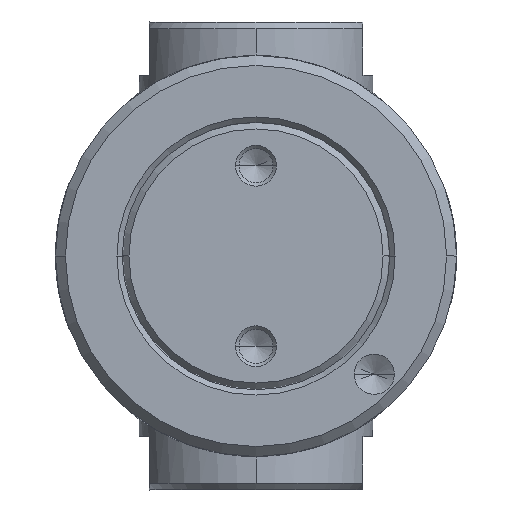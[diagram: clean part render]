
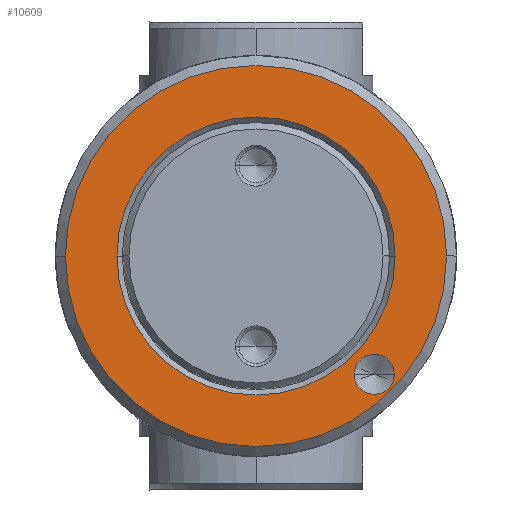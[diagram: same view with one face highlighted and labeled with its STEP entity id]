
A CAD part, front view. The second image highlights one B-rep face of the part: STEP entity #10609.
In plain terms, the highlighted planar face has unit normal (0, -1, 0).
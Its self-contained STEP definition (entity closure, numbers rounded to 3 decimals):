
#15=CARTESIAN_POINT('',(0.,-31.,0.));
#16=DIRECTION('',(0.,1.,0.));
#17=DIRECTION('',(-1.,0.,0.));
#18=AXIS2_PLACEMENT_3D('',#15,#16,#17);
#24=CARTESIAN_POINT('',(0.,-31.,0.));
#25=DIRECTION('',(0.,1.,0.));
#26=DIRECTION('',(1.,0.,0.));
#27=AXIS2_PLACEMENT_3D('',#24,#25,#26);
#32=CARTESIAN_POINT('',(0.,-31.,0.));
#33=DIRECTION('',(0.,1.,0.));
#34=DIRECTION('',(-1.,0.,0.));
#35=AXIS2_PLACEMENT_3D('',#32,#33,#34);
#40=CARTESIAN_POINT('',(0.,-31.,0.));
#41=DIRECTION('',(0.,1.,0.));
#42=DIRECTION('',(1.,0.,0.));
#43=AXIS2_PLACEMENT_3D('',#40,#41,#42);
#48=CARTESIAN_POINT('',(17.678,-31.,-17.678));
#49=DIRECTION('',(0.,-1.,0.));
#50=DIRECTION('',(-1.,0.,0.));
#51=AXIS2_PLACEMENT_3D('',#48,#49,#50);
#56=CARTESIAN_POINT('',(17.678,-31.,-17.678));
#57=DIRECTION('',(0.,-1.,0.));
#58=DIRECTION('',(1.,0.,0.));
#59=AXIS2_PLACEMENT_3D('',#56,#57,#58);
#9792=CARTESIAN_POINT('',(-20.8,-31.,0.));
#9793=CARTESIAN_POINT('',(20.8,-31.,0.));
#9794=VERTEX_POINT('',#9792);
#9795=VERTEX_POINT('',#9793);
#9872=CARTESIAN_POINT('',(-28.5,-31.,0.));
#9873=CARTESIAN_POINT('',(28.5,-31.,0.));
#9874=VERTEX_POINT('',#9872);
#9875=VERTEX_POINT('',#9873);
#10032=CARTESIAN_POINT('',(14.678,-31.,-17.678));
#10033=CARTESIAN_POINT('',(20.678,-31.,-17.678));
#10034=VERTEX_POINT('',#10032);
#10035=VERTEX_POINT('',#10033);
#10586=CARTESIAN_POINT('',(0.,-31.,0.));
#10587=DIRECTION('',(0.,-1.,0.));
#10588=DIRECTION('',(-1.,0.,0.));
#10589=AXIS2_PLACEMENT_3D('',#10586,#10587,#10588);
#10590=PLANE('',#10589);
#10592=ORIENTED_EDGE('',*,*,#10591,.T.);
#10594=ORIENTED_EDGE('',*,*,#10593,.T.);
#10595=EDGE_LOOP('',(#10592,#10594));
#10596=FACE_OUTER_BOUND('',#10595,.F.);
#10598=ORIENTED_EDGE('',*,*,#10597,.F.);
#10600=ORIENTED_EDGE('',*,*,#10599,.F.);
#10601=EDGE_LOOP('',(#10598,#10600));
#10602=FACE_BOUND('',#10601,.F.);
#10604=ORIENTED_EDGE('',*,*,#10603,.T.);
#10606=ORIENTED_EDGE('',*,*,#10605,.T.);
#10607=EDGE_LOOP('',(#10604,#10606));
#10608=FACE_BOUND('',#10607,.F.);
#10609=ADVANCED_FACE('',(#10596,#10602,#10608),#10590,.T.);
#19=CIRCLE('',#18,20.8);
#28=CIRCLE('',#27,20.8);
#36=CIRCLE('',#35,28.5);
#44=CIRCLE('',#43,28.5);
#52=CIRCLE('',#51,3.);
#60=CIRCLE('',#59,3.);
#10591=EDGE_CURVE('',#9874,#9875,#36,.T.);
#10593=EDGE_CURVE('',#9875,#9874,#44,.T.);
#10597=EDGE_CURVE('',#9794,#9795,#19,.T.);
#10599=EDGE_CURVE('',#9795,#9794,#28,.T.);
#10603=EDGE_CURVE('',#10034,#10035,#52,.T.);
#10605=EDGE_CURVE('',#10035,#10034,#60,.T.);
